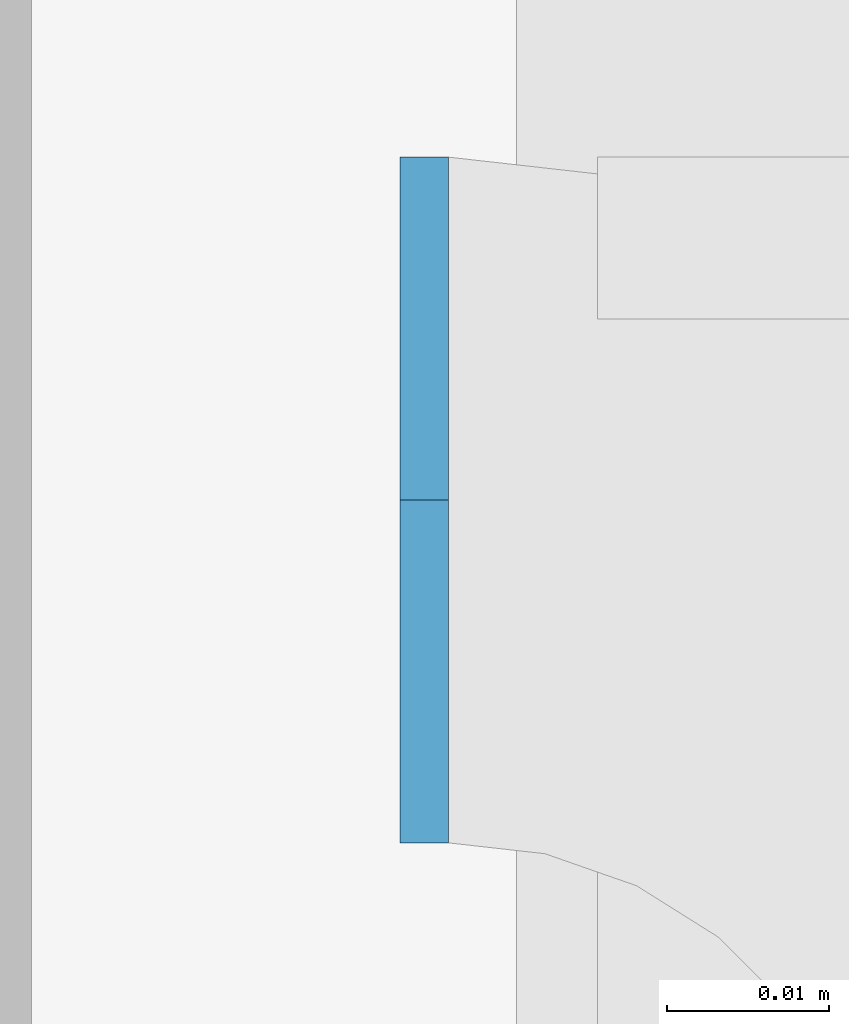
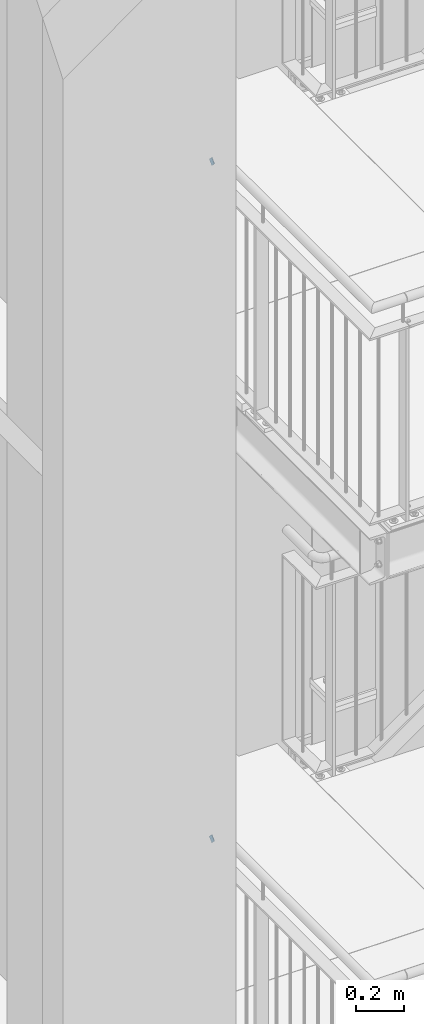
# One storey, part 225 of 831: 2 plates, 8 openings.
"""IFC2X3 building model written with IfcOpenShell, lengths in millimetres."""

from ifc_helpers import new_model, entity, si_unit, converted_unit, point, frame, frame_2d, origin, origin_with_axes, place, context, project, spatial, polyline, circle_curve, line_curve, trimmed, segment, composite_curve, outline, extrude, material, layer, layer_set, element, save


model = new_model("IFC2X3")

# Units and contexts
model_context = context("Model", 3, precision=1e-09, world=origin_with_axes())
ifc_project = project(units=[si_unit("LENGTHUNIT", "METRE", prefix="MILLI"), si_unit("AREAUNIT", "SQUARE_METRE"), si_unit("VOLUMEUNIT", "CUBIC_METRE"), converted_unit("PLANEANGLEUNIT", "DEGREE", entity("IfcPlaneAngleMeasure", 0.01745329), si_unit("PLANEANGLEUNIT", "RADIAN"), dimensions=[0, 0, 0, 0, 0, 0, 0])], contexts=[model_context])

# Site, building, storey
site_placement = place(None, origin_with_axes())
site = spatial("IfcSite", under=ifc_project, at=site_placement, Name="Site", CompositionType="ELEMENT")
building_placement = place(site_placement, origin_with_axes())
building = spatial("IfcBuilding", under=site, at=building_placement, Name="Struktur 1", CompositionType="ELEMENT")
storey_placement = place(building_placement, origin_with_axes())
storey = spatial("IfcBuildingStorey", under=building, at=storey_placement, Name="Default Storey", CompositionType="ELEMENT", Elevation=0.0)

# Plate, openings
ifc_material = material(Name="S235JR")
ifc_layer = layer(ifc_material, 3.0)
ifc_layer_set = layer_set([ifc_layer], Name="S235JR")
plate_1_placement = place(None, frame((3232.513402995, 5783.18329849, 8460.000000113), z_axis=(-1.0, 0.0, 0.0), x_axis=(0.0, 0.0, 1.0)))
plate_1 = element("IfcPlate", 1, at=plate_1_placement, inside=storey, material=ifc_layer_set, Name="-", ObjectType="-", context=model_context, shape_type="SweptSolid", body=[
    extrude(outline(polyline([(21.2, 0.0), (21.2, 42.4), (-21.2, 42.4), (-21.2, 0.0), (21.2, 0.0)])), origin_with_axes(), (0.0, 0.0, 1.0), 3.0),
])
opening_1_placement = place(plate_1_placement, frame((0.0, 0.0, -0.01), z_axis=(0.0, 0.0, 1.0), x_axis=(1.0, 0.0, 0.0)))
element("IfcOpeningElement", 2, at=opening_1_placement, cuts=plate_1, ObjectType="Opening", context=model_context, shape_type="SweptSolid", body=[
    extrude(outline(composite_curve([segment(trimmed(line_curve((21.2, 0.0), (0.0, 1.0), 21.2), [point((21.2, 0.0))], [point((21.2, 21.2))], True, "CARTESIAN"), True, "CONTINUOUS"), segment(trimmed(circle_curve(frame_2d((0.0, 21.2), x_axis=(-1.0, 0.0)), 21.2), [point((21.2, 21.2))], [point((0.0, 0.0))], False, "CARTESIAN"), True, "CONTINUOUS"), segment(trimmed(line_curve((0.0, 0.0), (1.0, 0.0), 21.2), [point((0.0, 0.0))], [point((21.2, 0.0))], True, "CARTESIAN"), True, "CONTINUOUS")], self_intersect=False)), origin(), (0.0, 0.0, 1.0), 3.02),
])
opening_2_placement = place(plate_1_placement, frame((0.0, 0.0, -0.01), z_axis=(0.0, 0.0, 1.0), x_axis=(1.0, 0.0, 0.0)))
element("IfcOpeningElement", 3, at=opening_2_placement, cuts=plate_1, ObjectType="Opening", context=model_context, shape_type="SweptSolid", body=[
    extrude(outline(composite_curve([segment(trimmed(line_curve((21.2, 42.4), (-1.0, 0.0), 21.2), [point((21.2, 42.4))], [point((0.0, 42.4))], True, "CARTESIAN"), True, "CONTINUOUS"), segment(trimmed(circle_curve(frame_2d((0.0, 21.2), x_axis=(-1.0, 0.0)), 21.2), [point((0.0, 42.4))], [point((21.2, 21.2))], False, "CARTESIAN"), True, "CONTINUOUS"), segment(trimmed(line_curve((21.2, 21.2), (0.0, 1.0), 21.2), [point((21.2, 21.2))], [point((21.2, 42.4))], True, "CARTESIAN"), True, "CONTINUOUS")], self_intersect=False)), origin(), (0.0, 0.0, 1.0), 3.02),
])
opening_3_placement = place(plate_1_placement, frame((0.0, 0.0, -0.01), z_axis=(0.0, 0.0, 1.0), x_axis=(1.0, 0.0, 0.0)))
element("IfcOpeningElement", 4, at=opening_3_placement, cuts=plate_1, ObjectType="Opening", context=model_context, shape_type="SweptSolid", body=[
    extrude(outline(composite_curve([segment(trimmed(line_curve((-21.2, 42.4), (0.0, -1.0), 21.2), [point((-21.2, 42.4))], [point((-21.2, 21.2))], True, "CARTESIAN"), True, "CONTINUOUS"), segment(trimmed(circle_curve(frame_2d((0.0, 21.2), x_axis=(-1.0, 0.0)), 21.2), [point((-21.2, 21.2))], [point((0.0, 42.4))], False, "CARTESIAN"), True, "CONTINUOUS"), segment(trimmed(line_curve((0.0, 42.4), (-1.0, 0.0), 21.2), [point((0.0, 42.4))], [point((-21.2, 42.4))], True, "CARTESIAN"), True, "CONTINUOUS")], self_intersect=False)), origin(), (0.0, 0.0, 1.0), 3.02),
])
opening_4_placement = place(plate_1_placement, frame((0.0, 0.0, -0.01), z_axis=(0.0, 0.0, 1.0), x_axis=(1.0, 0.0, 0.0)))
element("IfcOpeningElement", 5, at=opening_4_placement, cuts=plate_1, ObjectType="Opening", context=model_context, shape_type="SweptSolid", body=[
    extrude(outline(composite_curve([segment(trimmed(line_curve((-21.2, 0.0), (1.0, 0.0), 21.2), [point((-21.2, 0.0))], [point((0.0, 0.0))], True, "CARTESIAN"), True, "CONTINUOUS"), segment(trimmed(circle_curve(frame_2d((0.0, 21.2), x_axis=(-1.0, 0.0)), 21.2), [point((0.0, 0.0))], [point((-21.2, 21.2))], False, "CARTESIAN"), True, "CONTINUOUS"), segment(trimmed(line_curve((-21.2, 21.2), (0.0, -1.0), 21.2), [point((-21.2, 21.2))], [point((-21.2, 0.0))], True, "CARTESIAN"), True, "CONTINUOUS")], self_intersect=False)), origin(), (0.0, 0.0, 1.0), 3.02),
])

plate_2_placement = place(None, frame((3232.513402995, 5783.18329849, 4987.000000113), z_axis=(-1.0, 0.0, 0.0), x_axis=(0.0, 0.0, 1.0)))
plate_2 = element("IfcPlate", 6, at=plate_2_placement, inside=storey, material=ifc_layer_set, Name="-", ObjectType="-", context=model_context, shape_type="SweptSolid", body=[
    extrude(outline(polyline([(21.2, 0.0), (21.2, 42.4), (-21.2, 42.4), (-21.2, 0.0), (21.2, 0.0)])), origin_with_axes(), (0.0, 0.0, 1.0), 3.0),
])
opening_5_placement = place(plate_2_placement, frame((0.0, 0.0, -0.01), z_axis=(0.0, 0.0, 1.0), x_axis=(1.0, 0.0, 0.0)))
element("IfcOpeningElement", 7, at=opening_5_placement, cuts=plate_2, ObjectType="Opening", context=model_context, shape_type="SweptSolid", body=[
    extrude(outline(composite_curve([segment(trimmed(line_curve((21.2, 0.0), (0.0, 1.0), 21.2), [point((21.2, 0.0))], [point((21.2, 21.2))], True, "CARTESIAN"), True, "CONTINUOUS"), segment(trimmed(circle_curve(frame_2d((0.0, 21.2), x_axis=(-1.0, 0.0)), 21.2), [point((21.2, 21.2))], [point((0.0, 0.0))], False, "CARTESIAN"), True, "CONTINUOUS"), segment(trimmed(line_curve((0.0, 0.0), (1.0, 0.0), 21.2), [point((0.0, 0.0))], [point((21.2, 0.0))], True, "CARTESIAN"), True, "CONTINUOUS")], self_intersect=False)), origin(), (0.0, 0.0, 1.0), 3.02),
])
opening_6_placement = place(plate_2_placement, frame((0.0, 0.0, -0.01), z_axis=(0.0, 0.0, 1.0), x_axis=(1.0, 0.0, 0.0)))
element("IfcOpeningElement", 8, at=opening_6_placement, cuts=plate_2, ObjectType="Opening", context=model_context, shape_type="SweptSolid", body=[
    extrude(outline(composite_curve([segment(trimmed(line_curve((21.2, 42.4), (-1.0, 0.0), 21.2), [point((21.2, 42.4))], [point((0.0, 42.4))], True, "CARTESIAN"), True, "CONTINUOUS"), segment(trimmed(circle_curve(frame_2d((0.0, 21.2), x_axis=(-1.0, 0.0)), 21.2), [point((0.0, 42.4))], [point((21.2, 21.2))], False, "CARTESIAN"), True, "CONTINUOUS"), segment(trimmed(line_curve((21.2, 21.2), (0.0, 1.0), 21.2), [point((21.2, 21.2))], [point((21.2, 42.4))], True, "CARTESIAN"), True, "CONTINUOUS")], self_intersect=False)), origin(), (0.0, 0.0, 1.0), 3.02),
])
opening_7_placement = place(plate_2_placement, frame((0.0, 0.0, -0.01), z_axis=(0.0, 0.0, 1.0), x_axis=(1.0, 0.0, 0.0)))
element("IfcOpeningElement", 9, at=opening_7_placement, cuts=plate_2, ObjectType="Opening", context=model_context, shape_type="SweptSolid", body=[
    extrude(outline(composite_curve([segment(trimmed(line_curve((-21.2, 42.4), (0.0, -1.0), 21.2), [point((-21.2, 42.4))], [point((-21.2, 21.2))], True, "CARTESIAN"), True, "CONTINUOUS"), segment(trimmed(circle_curve(frame_2d((0.0, 21.2), x_axis=(-1.0, 0.0)), 21.2), [point((-21.2, 21.2))], [point((0.0, 42.4))], False, "CARTESIAN"), True, "CONTINUOUS"), segment(trimmed(line_curve((0.0, 42.4), (-1.0, 0.0), 21.2), [point((0.0, 42.4))], [point((-21.2, 42.4))], True, "CARTESIAN"), True, "CONTINUOUS")], self_intersect=False)), origin(), (0.0, 0.0, 1.0), 3.02),
])
opening_8_placement = place(plate_2_placement, frame((0.0, 0.0, -0.01), z_axis=(0.0, 0.0, 1.0), x_axis=(1.0, 0.0, 0.0)))
element("IfcOpeningElement", 10, at=opening_8_placement, cuts=plate_2, ObjectType="Opening", context=model_context, shape_type="SweptSolid", body=[
    extrude(outline(composite_curve([segment(trimmed(line_curve((-21.2, 0.0), (1.0, 0.0), 21.2), [point((-21.2, 0.0))], [point((0.0, 0.0))], True, "CARTESIAN"), True, "CONTINUOUS"), segment(trimmed(circle_curve(frame_2d((0.0, 21.2), x_axis=(-1.0, 0.0)), 21.2), [point((0.0, 0.0))], [point((-21.2, 21.2))], False, "CARTESIAN"), True, "CONTINUOUS"), segment(trimmed(line_curve((-21.2, 21.2), (0.0, -1.0), 21.2), [point((-21.2, 21.2))], [point((-21.2, 0.0))], True, "CARTESIAN"), True, "CONTINUOUS")], self_intersect=False)), origin(), (0.0, 0.0, 1.0), 3.02),
])

save(model, "model.ifc")
